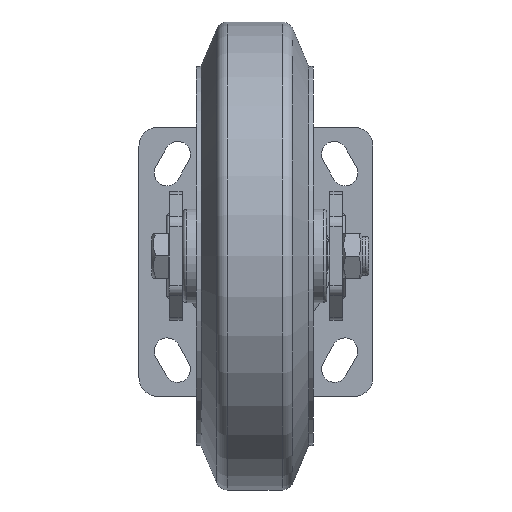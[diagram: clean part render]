
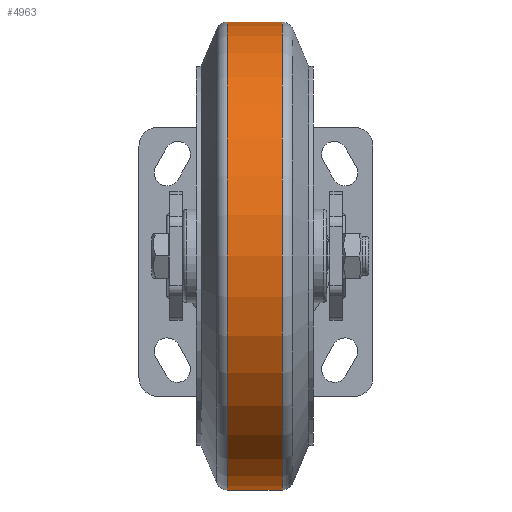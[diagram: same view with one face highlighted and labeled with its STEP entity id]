
A CAD part, front view. The second image highlights one B-rep face of the part: STEP entity #4963.
In plain terms, the highlighted cylindrical face has radius 100 mm (diameter 200 mm), a partial arc.
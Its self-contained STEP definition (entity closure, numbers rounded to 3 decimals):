
#610 = VERTEX_POINT ( 'NONE', #16948 ) ;
#4893 = VERTEX_POINT ( 'NONE', #13852 ) ;
#4940 = EDGE_CURVE ( 'NONE', #4893, #4971, #13991, .T. ) ;
#4960 = EDGE_CURVE ( 'NONE', #4893, #610, #14081, .T. ) ;
#4963 = ADVANCED_FACE ( 'NONE', ( #14047 ), #14115, .T. ) ;
#4964 = EDGE_LOOP ( 'NONE', ( #4965, #4966, #4969, #4972 ) ) ;
#4965 = ORIENTED_EDGE ( 'NONE', *, *, #4960, .T. ) ;
#4966 = ORIENTED_EDGE ( 'NONE', *, *, #4967, .T. ) ;
#4967 = EDGE_CURVE ( 'NONE', #610, #4968, #14085, .T. ) ;
#4968 = VERTEX_POINT ( 'NONE', #14087 ) ;
#4969 = ORIENTED_EDGE ( 'NONE', *, *, #4970, .F. ) ;
#4970 = EDGE_CURVE ( 'NONE', #4971, #4968, #14086, .T. ) ;
#4971 = VERTEX_POINT ( 'NONE', #14094 ) ;
#4972 = ORIENTED_EDGE ( 'NONE', *, *, #4940, .F. ) ;
#13852 = CARTESIAN_POINT ( 'NONE',  ( 0., 52.68, -100. ) ) ;
#13988 = DIRECTION ( 'NONE',  ( 0., -1., 0. ) ) ;
#13989 = VECTOR ( 'NONE', #13988, 1000. ) ;
#13990 = CARTESIAN_POINT ( 'NONE',  ( 0., 0., -100. ) ) ;
#13991 = LINE ( 'NONE', #13990, #13989 ) ;
#14028 = DIRECTION ( 'NONE',  ( 0., 0., -1. ) ) ;
#14031 = AXIS2_PLACEMENT_3D ( 'NONE', #14092, #14091, #14028 ) ;
#14047 = FACE_OUTER_BOUND ( 'NONE', #4964, .T. ) ;
#14081 = CIRCLE ( 'NONE', #14031, 100. ) ;
#14082 = DIRECTION ( 'NONE',  ( 0., 0., -1. ) ) ;
#14083 = DIRECTION ( 'NONE',  ( 0., -1., 0. ) ) ;
#14084 = AXIS2_PLACEMENT_3D ( 'NONE', #14116, #14083, #14082 ) ;
#14085 = LINE ( 'NONE', #14090, #14089 ) ;
#14086 = CIRCLE ( 'NONE', #14098, 100. ) ;
#14087 = CARTESIAN_POINT ( 'NONE',  ( 0., 29.32, 100. ) ) ;
#14088 = DIRECTION ( 'NONE',  ( 0., -1., 0. ) ) ;
#14089 = VECTOR ( 'NONE', #14088, 1000. ) ;
#14090 = CARTESIAN_POINT ( 'NONE',  ( 0., 0., 100. ) ) ;
#14091 = DIRECTION ( 'NONE',  ( 0., -1., 0. ) ) ;
#14092 = CARTESIAN_POINT ( 'NONE',  ( 0., 52.68, 0. ) ) ;
#14094 = CARTESIAN_POINT ( 'NONE',  ( 0., 29.32, -100. ) ) ;
#14095 = DIRECTION ( 'NONE',  ( 0., 0., -1. ) ) ;
#14096 = DIRECTION ( 'NONE',  ( 0., -1., 0. ) ) ;
#14097 = CARTESIAN_POINT ( 'NONE',  ( 0., 29.32, 0. ) ) ;
#14098 = AXIS2_PLACEMENT_3D ( 'NONE', #14097, #14096, #14095 ) ;
#14115 = CYLINDRICAL_SURFACE ( 'NONE', #14084, 100. ) ;
#14116 = CARTESIAN_POINT ( 'NONE',  ( 0., 0., 0. ) ) ;
#16948 = CARTESIAN_POINT ( 'NONE',  ( 0., 52.68, 100. ) ) ;
